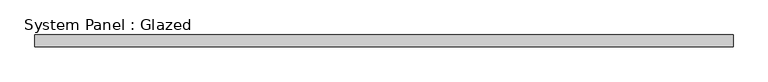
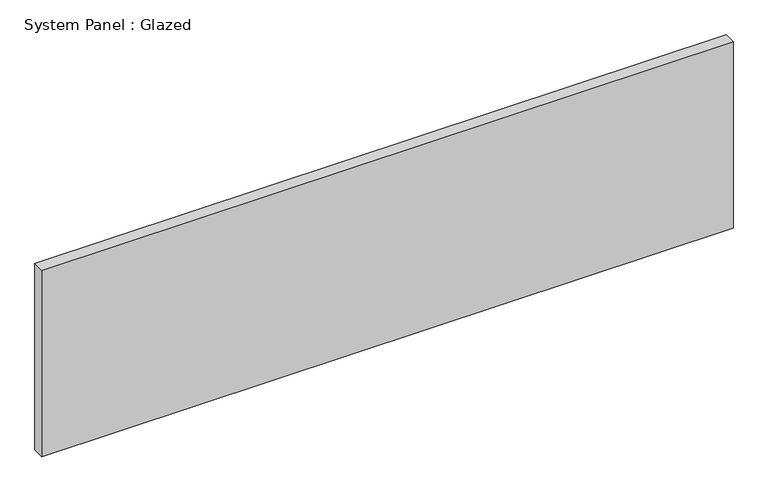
"""IFC4 building model written with IfcOpenShell, lengths in millimetres: plate geometry, System Panel : Glazed."""

from ifc_helpers import new_model, si_unit, origin, origin_with_axes, place, context, project, spatial, polyline, outline, extrude, source, transform, mapped, element, save


def system_panel_glazed_af77fa4d(model_context):
    return source(origin(), model_context, "Body", "SweptSolid", [
        extrude(outline(polyline([(745.0, -12.5), (-745.0, -12.5), (-745.0, 12.5), (745.0, 12.5), (745.0, -12.5)])), origin_with_axes(), (0.0, 0.0, 1.0), 425.0),
    ])


if __name__ == "__main__":
    model = new_model("IFC4")
    model_context = context("Model", 3, world=origin())
    ifc_project = project(units=[si_unit("LENGTHUNIT", "METRE", prefix="MILLI")], contexts=[model_context])
    site = spatial("IfcSite", under=ifc_project)
    building = spatial("IfcBuilding", under=site)
    placement = place(None, origin())
    system_panel_glazed_shape = system_panel_glazed_af77fa4d(model_context)
    element("IfcPlate", 1, ObjectType="System Panel : Glazed", at=placement, inside=building, context=model_context, shape_type="MappedRepresentation", body=[
        mapped(system_panel_glazed_shape, transform((0.0, 0.0, 0.0), x_axis=(1.0, 0.0, 0.0), y_axis=(0.0, 1.0, 0.0), z_axis=(0.0, 0.0, 1.0))),
    ])
    save(model, "model.ifc")
